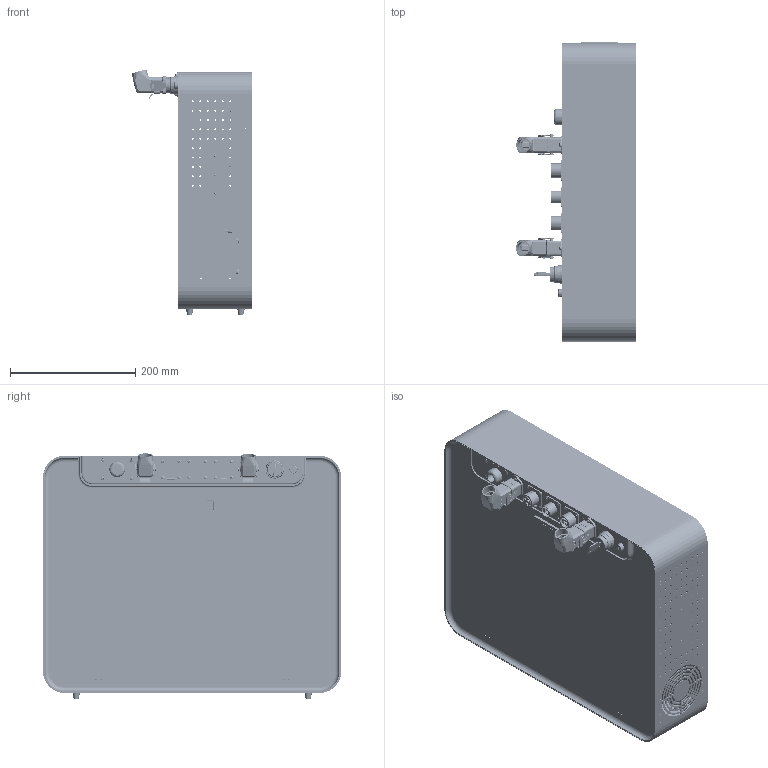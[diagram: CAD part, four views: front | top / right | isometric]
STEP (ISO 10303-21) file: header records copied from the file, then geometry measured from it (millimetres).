
FILE_DESCRIPTION (( 'STEP AP203' ), '1' );
FILE_NAME ('EC66 220V¿ØÖÆ¹ñ.STEP', '2020-02-24T07:05:43', ( '' ), ( '' ), 'SwSTEP 2.0', 'SolidWorks 2017', '' );
FILE_SCHEMA (( 'CONFIG_CONTROL_DESIGN' ));
Length unit declared in the file: millimetre
Products named in the file (47): 09360082632_100181384MOD000A_A_ASM; PRT0085; PRT0008; PRT0002; ZN17001020012---200_110V---20190924; PRT0004; _X2_56FE5757_X0__16_A; 02_LSX001_ALL_00000_ASM; PRT0084; OUTSIDE-HW-KS_-M_2_A; right; MD_09620030301_R000001_A_ASM; 19620031640_100104673MOD000A_A_ASM; PRT0087; PRT0015; _X2_56FE5757_X0__05_A; GBT818-2000M38_A; 01_LSX001_ALL_00000_ASM; LED_PCB; INTERNET_PLUGIN_FEMALE_PIN_A; PRT0086; PRT0014; MS738-1; 09360082732_100181385MOD000A_A_ASM; HAN_8D_A_ASM; THROUGH_WALL_UNIT; 09200042734_100579644MOD000A_A_ASM; _X2_56FE5757_X0__07_A; OUTSIDE-HW_K_A_ASM; _X2_56FE5757_X0__03_A; PRT0006; PRT0007; M3_3; _X2_56FE5757_X0__04_A; _X2_56FE5757_X0__08_A; RS485_PLUGIN_FEMALE_PIN_A_ASM; PRT0017; foot; OUTSIDE-HWM_1_A; EC66 220V諷秶嶄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
Assembly tree (79 placements, depth 4):
  EC66 220V諷秶嶄
    ZN17001020012---200_110V---20190924
      01_LSX001_ALL_00000_ASM
        PRT0001
        PRT0004
        PRT0085
        PRT0086
        PRT0007
        PRT0015
        PRT0017
        PRT0087
        PRT0088
      02_LSX001_ALL_00000_ASM
        PRT0002
        M3_3  x6
      03_LSX001_ALL_00000_ASM
        PRT0006
        PRT0014  x2
      PRT0008
      LED_PCB
      PRT0084  x4
      MS738-1
      foot  x4
      right
    HAN_4_PE_A_ASM
      09200042634_100579646MOD000A_A_ASM
        _X2_56FE5757_X0__05_A
      09200042734_100579644MOD000A_A_ASM
        _X2_56FE5757_X0__08_A
      19620031640_100104673MOD000A_A_ASM
        _X2_56FE5757_X0__03_A
      MD_09620030301_R000001_A_ASM
        _X2_56FE5757_X0__07_A
    HAN_8D_A_ASM
      19620031640_100104673MOD000A_A_ASM
        _X2_56FE5757_X0__03_A
      09360082632_100181384MOD000A_A_ASM
        _X2_56FE5757_X0__04_A
      MD_09620030301_R000001_A_ASM
        _X2_56FE5757_X0__07_A
      09360082732_100181385MOD000A_A_ASM
        _X2_56FE5757_X0__16_A
    OUTSIDE-HW_K_A_ASM
      OUTSIDE-HWM_1_A
      OUTSIDE-HW-KS_-M_2_A
    INTERNET_PLUGIN_FEMALE_PIN_A
    RS485_PLUGIN_FEMALE_PIN_A_ASM
      2-505051
    USB_PLUGIN_FEMALE_PIN_A
    THROUGH_WALL_UNIT
    GBT818-2000M38_A  x20
Bounding box: 192.61 x 478 x 392.3 mm (x, y, z)
Volume: 678417 mm3; surface area: 1790832.5 mm2
Topology: 56 solids, 341 shells, 6620 faces, 18050 edges, 12077 vertices
Faces by surface type: plane 3318, cylinder 2429, bspline 432, cone 375, torus 66
Entity records: 246216 total; most frequent: CARTESIAN_POINT 103947, ORIENTED_EDGE 29159, DIRECTION 25505, EDGE_CURVE 15206, VERTEX_POINT 10341, AXIS2_PLACEMENT_3D 8778, LINE 7949, VECTOR 7949
